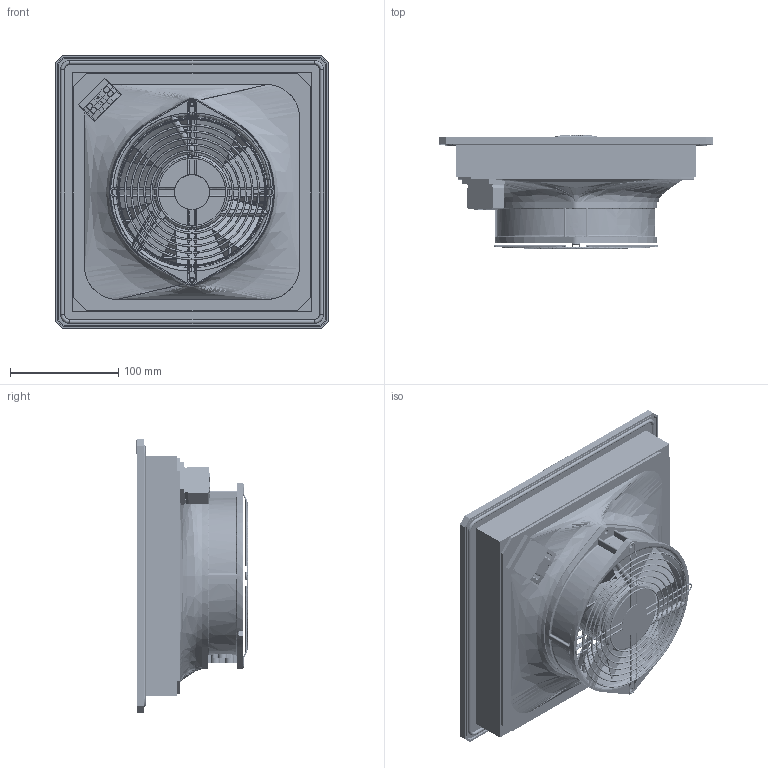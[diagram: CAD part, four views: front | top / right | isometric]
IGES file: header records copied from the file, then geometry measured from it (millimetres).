
Start section: SolidWorks IGES file using analytic representation for surfaces
Global section: file name: L:\3D Volumenmodelle\PF 43000_DC\PF43000_DC.IGS; native system: SolidWorks 2007; preprocessor: SolidWorks 2007; author: SEichler; date: 080104.144509; units: millimetre
Bounding box: 252 x 103.91 x 252 mm (x, y, z)
Surface area: 539650 mm2 (no closed solid volume)
Topology: 0 solids, 0 shells, 3136 faces, 36834 edges, 36790 vertices
Faces by surface type: bspline 2449, revolution 687
